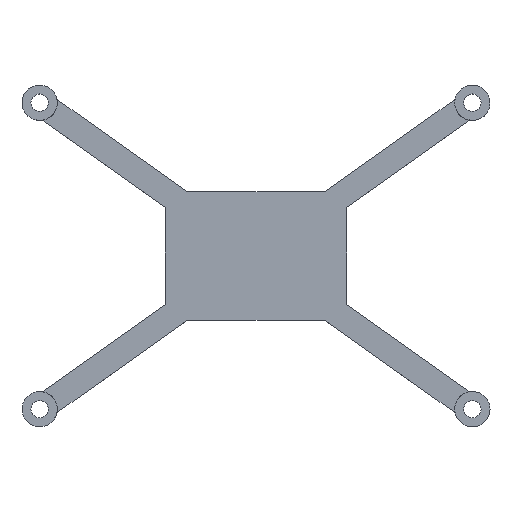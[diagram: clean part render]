
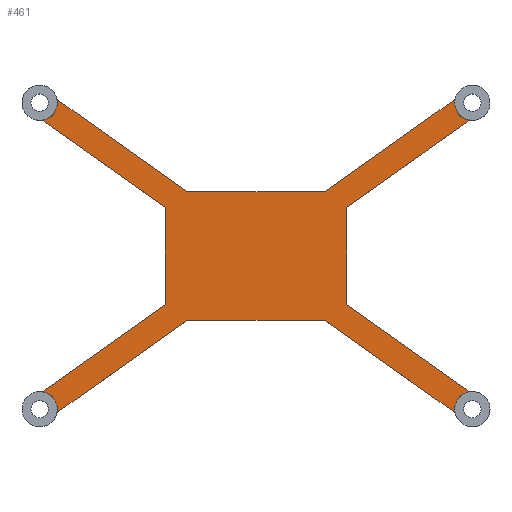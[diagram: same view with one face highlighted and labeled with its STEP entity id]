
A CAD part, top view. The second image highlights one B-rep face of the part: STEP entity #461.
In plain terms, the highlighted planar face has unit normal (0, 0, 1).
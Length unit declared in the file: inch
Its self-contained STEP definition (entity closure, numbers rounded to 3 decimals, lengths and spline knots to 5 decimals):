
#9 = VERTEX_POINT ( 'NONE', #826 ) ;
#26 = VERTEX_POINT ( 'NONE', #501 ) ;
#27 = ORIENTED_EDGE ( 'NONE', *, *, #432, .T. ) ;
#33 = AXIS2_PLACEMENT_3D ( 'NONE', #523, #133, #195 ) ;
#38 = VERTEX_POINT ( 'NONE', #42 ) ;
#41 = ORIENTED_EDGE ( 'NONE', *, *, #354, .F. ) ;
#42 = CARTESIAN_POINT ( 'NONE',  ( 0.53285, 0.5, 0.1 ) ) ;
#45 = CARTESIAN_POINT ( 'NONE',  ( -1.66829, -1.05922, 0.1 ) ) ;
#64 = EDGE_CURVE ( 'NONE', #38, #808, #209, .T. ) ;
#65 = DIRECTION ( 'NONE',  ( -0.816, -0.578, 0. ) ) ;
#80 = VECTOR ( 'NONE', #451, 39.37008 ) ;
#82 = VERTEX_POINT ( 'NONE', #317 ) ;
#99 = DIRECTION ( 'NONE',  ( 1., 0., 0. ) ) ;
#104 = DIRECTION ( 'NONE',  ( 1., 0., 0. ) ) ;
#109 = CARTESIAN_POINT ( 'NONE',  ( 0.70585, -0.37745, 0.1 ) ) ;
#112 = VERTEX_POINT ( 'NONE', #789 ) ;
#126 = LINE ( 'NONE', #449, #760 ) ;
#133 = DIRECTION ( 'NONE',  ( 0., 0., 1. ) ) ;
#140 = AXIS2_PLACEMENT_3D ( 'NONE', #232, #710, #104 ) ;
#143 = LINE ( 'NONE', #851, #358 ) ;
#148 = AXIS2_PLACEMENT_3D ( 'NONE', #307, #174, #648 ) ;
#155 = DIRECTION ( 'NONE',  ( -0.816, 0.578, 0. ) ) ;
#164 = LINE ( 'NONE', #697, #834 ) ;
#174 = DIRECTION ( 'NONE',  ( 0., 0., 1. ) ) ;
#188 = PLANE ( 'NONE',  #804 ) ;
#192 = DIRECTION ( 'NONE',  ( -0.816, 0.578, 0. ) ) ;
#195 = DIRECTION ( 'NONE',  ( 1., 0., 0. ) ) ;
#204 = VECTOR ( 'NONE', #410, 39.37008 ) ;
#209 = LINE ( 'NONE', #312, #537 ) ;
#211 = ORIENTED_EDGE ( 'NONE', *, *, #773, .F. ) ;
#232 = CARTESIAN_POINT ( 'NONE',  ( -1.6875, -1.19537, 0.1 ) ) ;
#239 = DIRECTION ( 'NONE',  ( 0., 0., 1. ) ) ;
#245 = LINE ( 'NONE', #332, #722 ) ;
#265 = DIRECTION ( 'NONE',  ( 0., 0., 1. ) ) ;
#282 = CARTESIAN_POINT ( 'NONE',  ( 0.70585, -0.37745, 0.1 ) ) ;
#296 = CARTESIAN_POINT ( 'NONE',  ( -1.66829, 1.05922, 0.1 ) ) ;
#300 = CIRCLE ( 'NONE', #148, 0.1375 ) ;
#302 = EDGE_CURVE ( 'NONE', #563, #818, #401, .T. ) ;
#307 = CARTESIAN_POINT ( 'NONE',  ( -1.6875, 1.19537, 0.1 ) ) ;
#311 = ORIENTED_EDGE ( 'NONE', *, *, #302, .T. ) ;
#312 = CARTESIAN_POINT ( 'NONE',  ( 0.53285, 0.5, 0.1 ) ) ;
#317 = CARTESIAN_POINT ( 'NONE',  ( 1.66829, 1.05922, 0.1 ) ) ;
#320 = CARTESIAN_POINT ( 'NONE',  ( -0.53285, -0.5, 0.1 ) ) ;
#322 = CIRCLE ( 'NONE', #33, 0.1375 ) ;
#327 = DIRECTION ( 'NONE',  ( 0., -1., 0. ) ) ;
#329 = DIRECTION ( 'NONE',  ( 1., 0., 0. ) ) ;
#331 = EDGE_CURVE ( 'NONE', #675, #688, #535, .T. ) ;
#332 = CARTESIAN_POINT ( 'NONE',  ( 1.66829, 1.05922, 0.1 ) ) ;
#354 = EDGE_CURVE ( 'NONE', #468, #82, #322, .T. ) ;
#358 = VECTOR ( 'NONE', #192, 39.37008 ) ;
#366 = CARTESIAN_POINT ( 'NONE',  ( 1.55269, 1.22242, 0.1 ) ) ;
#384 = DIRECTION ( 'NONE',  ( -0.816, -0.578, 0. ) ) ;
#385 = EDGE_CURVE ( 'NONE', #594, #563, #126, .T. ) ;
#401 = LINE ( 'NONE', #737, #593 ) ;
#406 = CARTESIAN_POINT ( 'NONE',  ( 1.55269, 1.22242, 0.1 ) ) ;
#409 = AXIS2_PLACEMENT_3D ( 'NONE', #570, #239, #715 ) ;
#410 = DIRECTION ( 'NONE',  ( 0., 1., 0. ) ) ;
#415 = EDGE_CURVE ( 'NONE', #26, #9, #785, .T. ) ;
#419 = LINE ( 'NONE', #296, #438 ) ;
#432 = EDGE_CURVE ( 'NONE', #112, #762, #143, .T. ) ;
#436 = EDGE_LOOP ( 'NONE', ( #752, #41, #772, #674, #680, #503, #636, #664, #311, #729, #755, #763, #718, #211, #27, #605 ) ) ;
#437 = CARTESIAN_POINT ( 'NONE',  ( -0.53285, 0.5, 0.1 ) ) ;
#438 = VECTOR ( 'NONE', #828, 39.37008 ) ;
#448 = VECTOR ( 'NONE', #65, 39.37008 ) ;
#449 = CARTESIAN_POINT ( 'NONE',  ( -0.70585, -0.37745, 0.1 ) ) ;
#450 = DIRECTION ( 'NONE',  ( 0.816, 0.578, 0. ) ) ;
#451 = DIRECTION ( 'NONE',  ( 0.816, -0.578, 0. ) ) ;
#461 = ADVANCED_FACE ( 'NONE', ( #749 ), #188, .T. ) ;
#468 = VERTEX_POINT ( 'NONE', #406 ) ;
#493 = LINE ( 'NONE', #366, #448 ) ;
#501 = CARTESIAN_POINT ( 'NONE',  ( 0.53285, -0.5, 0.1 ) ) ;
#503 = ORIENTED_EDGE ( 'NONE', *, *, #783, .F. ) ;
#510 = LINE ( 'NONE', #282, #204 ) ;
#523 = CARTESIAN_POINT ( 'NONE',  ( 1.6875, 1.19537, 0.1 ) ) ;
#535 = LINE ( 'NONE', #320, #838 ) ;
#537 = VECTOR ( 'NONE', #614, 39.37008 ) ;
#557 = CIRCLE ( 'NONE', #409, 0.1375 ) ;
#563 = VERTEX_POINT ( 'NONE', #814 ) ;
#569 = VECTOR ( 'NONE', #99, 39.37008 ) ;
#570 = CARTESIAN_POINT ( 'NONE',  ( 1.6875, -1.19537, 0.1 ) ) ;
#577 = EDGE_CURVE ( 'NONE', #762, #786, #510, .T. ) ;
#587 = LINE ( 'NONE', #642, #569 ) ;
#593 = VECTOR ( 'NONE', #384, 39.37008 ) ;
#594 = VERTEX_POINT ( 'NONE', #819 ) ;
#600 = EDGE_CURVE ( 'NONE', #808, #731, #164, .T. ) ;
#603 = DIRECTION ( 'NONE',  ( 0.816, 0.578, 0. ) ) ;
#605 = ORIENTED_EDGE ( 'NONE', *, *, #577, .T. ) ;
#612 = CIRCLE ( 'NONE', #140, 0.1375 ) ;
#614 = DIRECTION ( 'NONE',  ( -1., 0., 0. ) ) ;
#627 = CARTESIAN_POINT ( 'NONE',  ( -1.55269, -1.22242, 0.1 ) ) ;
#636 = ORIENTED_EDGE ( 'NONE', *, *, #712, .T. ) ;
#642 = CARTESIAN_POINT ( 'NONE',  ( 0.53285, -0.5, 0.1 ) ) ;
#648 = DIRECTION ( 'NONE',  ( 1., 0., 0. ) ) ;
#664 = ORIENTED_EDGE ( 'NONE', *, *, #385, .T. ) ;
#669 = CARTESIAN_POINT ( 'NONE',  ( -1.6875, 1.19537, 0.1 ) ) ;
#674 = ORIENTED_EDGE ( 'NONE', *, *, #64, .T. ) ;
#675 = VERTEX_POINT ( 'NONE', #627 ) ;
#680 = ORIENTED_EDGE ( 'NONE', *, *, #600, .T. ) ;
#681 = EDGE_CURVE ( 'NONE', #688, #26, #587, .T. ) ;
#688 = VERTEX_POINT ( 'NONE', #705 ) ;
#697 = CARTESIAN_POINT ( 'NONE',  ( -1.55269, 1.22242, 0.1 ) ) ;
#705 = CARTESIAN_POINT ( 'NONE',  ( -0.53285, -0.5, 0.1 ) ) ;
#710 = DIRECTION ( 'NONE',  ( 0., 0., 1. ) ) ;
#712 = EDGE_CURVE ( 'NONE', #753, #594, #419, .T. ) ;
#715 = DIRECTION ( 'NONE',  ( 1., 0., 0. ) ) ;
#718 = ORIENTED_EDGE ( 'NONE', *, *, #415, .T. ) ;
#722 = VECTOR ( 'NONE', #603, 39.37008 ) ;
#729 = ORIENTED_EDGE ( 'NONE', *, *, #744, .F. ) ;
#731 = VERTEX_POINT ( 'NONE', #836 ) ;
#737 = CARTESIAN_POINT ( 'NONE',  ( -0.70585, -0.37745, 0.1 ) ) ;
#744 = EDGE_CURVE ( 'NONE', #675, #818, #612, .T. ) ;
#749 = FACE_OUTER_BOUND ( 'NONE', #436, .T. ) ;
#752 = ORIENTED_EDGE ( 'NONE', *, *, #823, .T. ) ;
#753 = VERTEX_POINT ( 'NONE', #837 ) ;
#755 = ORIENTED_EDGE ( 'NONE', *, *, #331, .T. ) ;
#760 = VECTOR ( 'NONE', #327, 39.37008 ) ;
#762 = VERTEX_POINT ( 'NONE', #109 ) ;
#763 = ORIENTED_EDGE ( 'NONE', *, *, #681, .T. ) ;
#772 = ORIENTED_EDGE ( 'NONE', *, *, #810, .T. ) ;
#773 = EDGE_CURVE ( 'NONE', #112, #9, #557, .T. ) ;
#777 = CARTESIAN_POINT ( 'NONE',  ( 0.70585, 0.37745, 0.1 ) ) ;
#783 = EDGE_CURVE ( 'NONE', #753, #731, #300, .T. ) ;
#785 = LINE ( 'NONE', #859, #80 ) ;
#786 = VERTEX_POINT ( 'NONE', #777 ) ;
#789 = CARTESIAN_POINT ( 'NONE',  ( 1.66829, -1.05922, 0.1 ) ) ;
#804 = AXIS2_PLACEMENT_3D ( 'NONE', #669, #265, #329 ) ;
#808 = VERTEX_POINT ( 'NONE', #437 ) ;
#810 = EDGE_CURVE ( 'NONE', #468, #38, #493, .T. ) ;
#814 = CARTESIAN_POINT ( 'NONE',  ( -0.70585, -0.37745, 0.1 ) ) ;
#818 = VERTEX_POINT ( 'NONE', #45 ) ;
#819 = CARTESIAN_POINT ( 'NONE',  ( -0.70585, 0.37745, 0.1 ) ) ;
#823 = EDGE_CURVE ( 'NONE', #786, #82, #245, .T. ) ;
#826 = CARTESIAN_POINT ( 'NONE',  ( 1.55269, -1.22242, 0.1 ) ) ;
#828 = DIRECTION ( 'NONE',  ( 0.816, -0.578, 0. ) ) ;
#834 = VECTOR ( 'NONE', #155, 39.37008 ) ;
#836 = CARTESIAN_POINT ( 'NONE',  ( -1.55269, 1.22242, 0.1 ) ) ;
#837 = CARTESIAN_POINT ( 'NONE',  ( -1.66829, 1.05922, 0.1 ) ) ;
#838 = VECTOR ( 'NONE', #450, 39.37008 ) ;
#851 = CARTESIAN_POINT ( 'NONE',  ( 0.70585, -0.37745, 0.1 ) ) ;
#859 = CARTESIAN_POINT ( 'NONE',  ( 0.53285, -0.5, 0.1 ) ) ;
